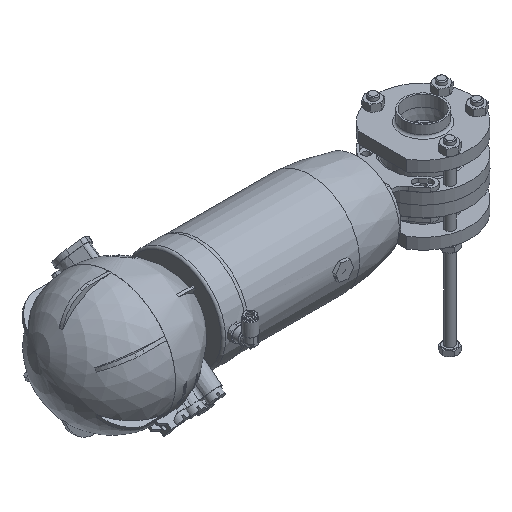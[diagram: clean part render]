
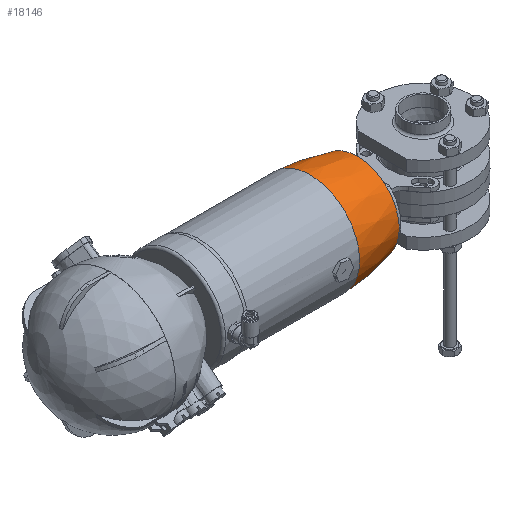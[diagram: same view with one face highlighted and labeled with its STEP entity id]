
A CAD part, isometric view. The second image highlights one B-rep face of the part: STEP entity #18146.
In plain terms, the highlighted free-form (B-spline) face has degree [2, 2] with [3, 9] control points.
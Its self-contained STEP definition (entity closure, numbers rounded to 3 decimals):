
#405=(
BOUNDED_SURFACE()
B_SPLINE_SURFACE(2,2,((#28542,#28543,#28544,#28545,#28546,#28547,#28548,
#28549,#28550),(#28551,#28552,#28553,#28554,#28555,#28556,#28557,#28558,
#28559),(#28560,#28561,#28562,#28563,#28564,#28565,#28566,#28567,#28568)),
 .UNSPECIFIED.,.F.,.T.,.F.)
B_SPLINE_SURFACE_WITH_KNOTS((3,3),(3,2,2,2,3),(0.027,0.298),
(-3.142,-1.571,0.,1.571,3.142),
 .UNSPECIFIED.)
GEOMETRIC_REPRESENTATION_ITEM()
RATIONAL_B_SPLINE_SURFACE(((1.,0.707,1.,0.707,1.,
0.707,1.,0.707,1.),(0.991,0.701,
0.991,0.701,0.991,0.701,0.991,
0.701,0.991),(1.,0.707,1.,0.707,
1.,0.707,1.,0.707,1.)))
REPRESENTATION_ITEM('')
SURFACE()
);
#2890=FACE_OUTER_BOUND('',#3954,.T.);
#3954=EDGE_LOOP('',(#13116,#13117,#13118,#13119,#13120,#13121));
#7145=CIRCLE('',#19517,44.5);
#7146=CIRCLE('',#19518,44.5);
#7148=CIRCLE('',#19520,44.5);
#7180=CIRCLE('',#19575,37.5);
#7189=CIRCLE('',#19584,160.);
#8067=VERTEX_POINT('',#28275);
#8068=VERTEX_POINT('',#28276);
#8069=VERTEX_POINT('',#28278);
#8103=VERTEX_POINT('',#28524);
#9971=EDGE_CURVE('',#8067,#8068,#7145,.T.);
#9972=EDGE_CURVE('',#8069,#8067,#7146,.T.);
#9978=EDGE_CURVE('',#8068,#8069,#7148,.T.);
#10033=EDGE_CURVE('',#8103,#8103,#7180,.T.);
#10042=EDGE_CURVE('',#8068,#8103,#7189,.T.);
#13116=ORIENTED_EDGE('',*,*,#9971,.T.);
#13117=ORIENTED_EDGE('',*,*,#10042,.T.);
#13118=ORIENTED_EDGE('',*,*,#10033,.F.);
#13119=ORIENTED_EDGE('',*,*,#10042,.F.);
#13120=ORIENTED_EDGE('',*,*,#9978,.T.);
#13121=ORIENTED_EDGE('',*,*,#9972,.T.);
#18146=ADVANCED_FACE('',(#2890),#405,.F.);
#19517=AXIS2_PLACEMENT_3D('',#28277,#22254,#22255);
#19518=AXIS2_PLACEMENT_3D('',#28279,#22256,#22257);
#19520=AXIS2_PLACEMENT_3D('',#28286,#22264,#22265);
#19575=AXIS2_PLACEMENT_3D('',#28525,#22391,#22392);
#19584=AXIS2_PLACEMENT_3D('',#28569,#22409,#22410);
#22254=DIRECTION('center_axis',(0.,-1.,0.));
#22255=DIRECTION('ref_axis',(-1.,0.,0.));
#22256=DIRECTION('center_axis',(0.,-1.,0.));
#22257=DIRECTION('ref_axis',(-1.,0.,0.));
#22264=DIRECTION('center_axis',(0.,-1.,0.));
#22265=DIRECTION('ref_axis',(-1.,0.,0.));
#22391=DIRECTION('center_axis',(0.,-1.,0.));
#22392=DIRECTION('ref_axis',(-1.,0.,0.));
#22409=DIRECTION('center_axis',(1.,0.,0.));
#22410=DIRECTION('ref_axis',(0.,0.,
1.));
#28275=CARTESIAN_POINT('',(0.,-28.317,-44.5));
#28276=CARTESIAN_POINT('',(0.,-28.317,44.5));
#28277=CARTESIAN_POINT('Origin',(0.,-28.317,0.));
#28278=CARTESIAN_POINT('',(-44.5,-28.317,0.));
#28279=CARTESIAN_POINT('Origin',(0.,-28.317,0.));
#28286=CARTESIAN_POINT('Origin',(0.,-28.317,0.));
#28524=CARTESIAN_POINT('',(0.,-71.,37.5));
#28525=CARTESIAN_POINT('Origin',(0.,-71.,
0.));
#28542=CARTESIAN_POINT('Ctrl Pts',(0.,-28.317,
44.5));
#28543=CARTESIAN_POINT('Ctrl Pts',(-44.5,-28.317,
44.5));
#28544=CARTESIAN_POINT('Ctrl Pts',(-44.5,-28.317,
0.));
#28545=CARTESIAN_POINT('Ctrl Pts',(-44.5,-28.317,
-44.5));
#28546=CARTESIAN_POINT('Ctrl Pts',(0.,-28.317,
-44.5));
#28547=CARTESIAN_POINT('Ctrl Pts',(44.5,-28.317,-44.5));
#28548=CARTESIAN_POINT('Ctrl Pts',(44.5,-28.317,0.));
#28549=CARTESIAN_POINT('Ctrl Pts',(44.5,-28.317,44.5));
#28550=CARTESIAN_POINT('Ctrl Pts',(0.,-28.317,
44.5));
#28551=CARTESIAN_POINT('Ctrl Pts',(0.,-50.136,
43.911));
#28552=CARTESIAN_POINT('Ctrl Pts',(-43.911,-50.136,
43.911));
#28553=CARTESIAN_POINT('Ctrl Pts',(-43.911,-50.136,
0.));
#28554=CARTESIAN_POINT('Ctrl Pts',(-43.911,-50.136,
-43.911));
#28555=CARTESIAN_POINT('Ctrl Pts',(0.,-50.136,
-43.911));
#28556=CARTESIAN_POINT('Ctrl Pts',(43.911,-50.136,-43.911));
#28557=CARTESIAN_POINT('Ctrl Pts',(43.911,-50.136,0.));
#28558=CARTESIAN_POINT('Ctrl Pts',(43.911,-50.136,43.911));
#28559=CARTESIAN_POINT('Ctrl Pts',(0.,-50.136,
43.911));
#28560=CARTESIAN_POINT('Ctrl Pts',(0.,-71.,
37.5));
#28561=CARTESIAN_POINT('Ctrl Pts',(-37.5,-71.,
37.5));
#28562=CARTESIAN_POINT('Ctrl Pts',(-37.5,-71.,
0.));
#28563=CARTESIAN_POINT('Ctrl Pts',(-37.5,-71.,-37.5));
#28564=CARTESIAN_POINT('Ctrl Pts',(0.,-71.,
-37.5));
#28565=CARTESIAN_POINT('Ctrl Pts',(37.5,-71.,-37.5));
#28566=CARTESIAN_POINT('Ctrl Pts',(37.5,-71.,0.));
#28567=CARTESIAN_POINT('Ctrl Pts',(37.5,-71.,37.5));
#28568=CARTESIAN_POINT('Ctrl Pts',(0.,-71.,
37.5));
#28569=CARTESIAN_POINT('Origin',(0.,-24.002,
-115.442));
